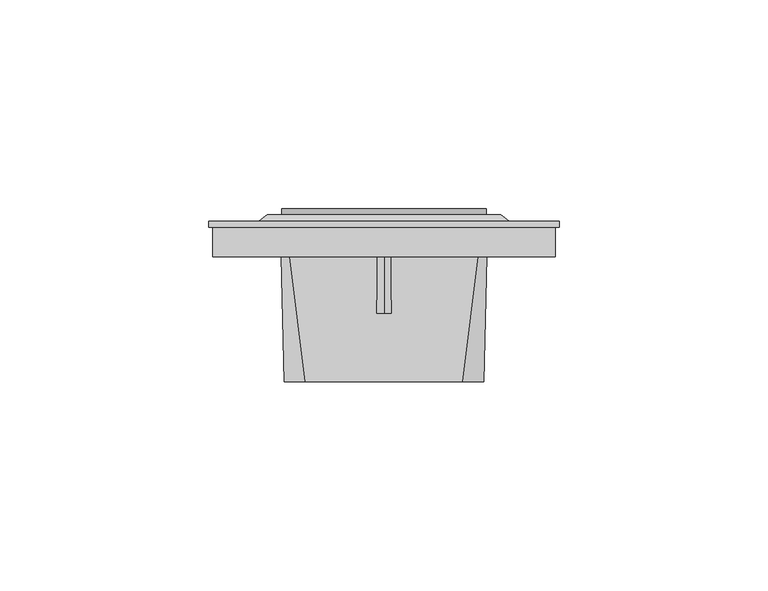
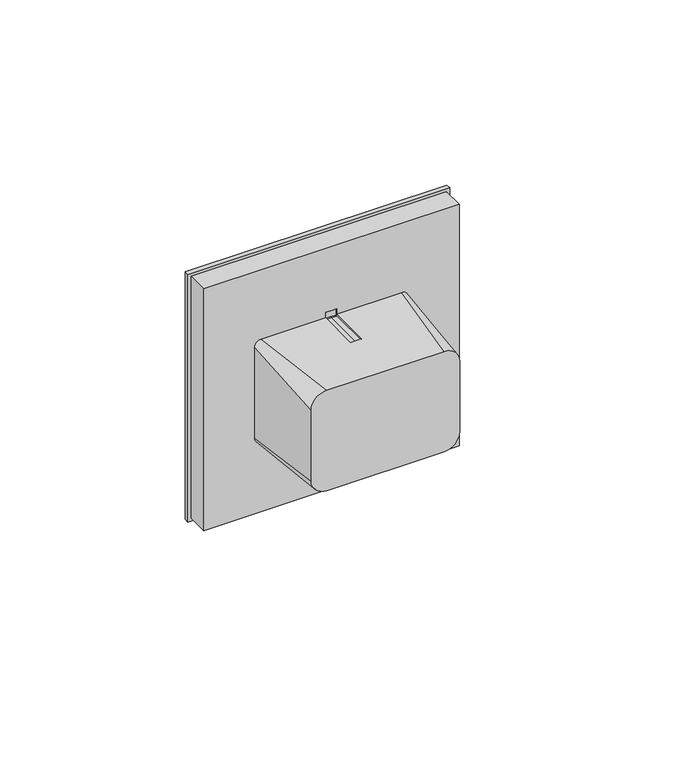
"""IFC4 building model written with IfcOpenShell, lengths in millimetres: proxy geometry, IEK_Brite_Розетка_1гн : Р1_РСР10-1-0-БрА."""

from ifc_helpers import new_model, si_unit, point, frame, frame_2d, origin, place, context, project, spatial, polyline, circle_curve, ellipse_curve, trimmed, segment, composite_curve, outline, extrude, source, transform, mapped, element, save
from ifc_brep_helpers import plane_surface, cylinder_surface, revolved_surface, spline_surface, advanced_brep


def electrical_fixtures_ac517def(model_context):
    return source(origin(), model_context, "Body", "SolidModel", [
        advanced_brep(
        [(-26.8904783, -13.4962918, 0.0), (-32.3753617, -13.4962918, 0.0), (-17.4894714, -13.4962918, 0.0), (-23.5105286, -13.4962918, 0.0), (-8.6246383, -13.4962918, 0.0), (-14.1095217, -13.4962918, 0.0), (-18.7082092, -13.4962918, 16.8280847), (-20.5, -13.4962918, 16.8280847), (-22.2917908, -13.4962918, 16.8280847), (-22.2917908, -13.4962918, 17.2750618), (-18.7082092, -13.4962918, 17.2750618), (-22.2917908, -13.4962918, -16.8280847), (-20.5, -13.4962918, -16.8280847), (-18.7082092, -13.4962918, -16.8280847), (-18.7082092, -13.4962918, -17.2750618), (-22.2917908, -13.4962918, -17.2750618), (-32.3753617, 0.0, 0.0), (-26.8904783, 0.0, 0.0), (-23.5105286, 0.0, 0.0), (-17.4894714, 0.0, 0.0), (-14.1095217, 0.0, 0.0), (-8.6246383, 0.0, 0.0), (-22.2917908, 0.0, 16.8280847), (-22.2917908, 0.0, 17.5), (-20.5, 0.0, 16.8280847), (-18.7082092, 0.0, 16.8280847), (-18.7082092, 0.0, 17.5), (-18.7082092, 0.0, -16.8280847), (-18.7082092, 0.0, -17.5), (-20.5, 0.0, -16.8280847), (-22.2917908, 0.0, -16.8280847), (-22.2917908, 0.0, -17.5), (-1.6500177, -30.0, -17.0), (3.3499823, -30.0, -12.0), (3.3499823, -30.0, 12.0), (-1.6500177, -30.0, 17.0), (-39.3499823, -30.0, 17.0), (-44.3499823, -30.0, 12.0), (-44.3499823, -30.0, -12.0), (-39.3499823, -30.0, -17.0), (-43.0691146, 0.0, -17.5), (-45.0691146, 0.0, -15.5), (-45.0691146, 0.0, 15.5), (-43.0691146, 0.0, 17.5), (2.0691146, 0.0, 17.5), (4.0691146, 0.0, 15.5), (4.0691146, 0.0, -15.5), (2.0691146, 0.0, -17.5)],
        [
            (0, 1, circle_curve(frame((-29.63292, -13.4962918, 0.0), z_axis=(0.0, 1.0, 0.0), x_axis=(-1.0, 0.0, 1.2191359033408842e-12)), 2.7424417)),
            (1, 0, circle_curve(frame((-29.63292, -13.4962918, 0.0), z_axis=(0.0, 1.0, 0.0), x_axis=(-1.0, 0.0, 1.2191359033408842e-12)), 2.7424417)),
            (2, 3, circle_curve(frame((-20.5, -13.4962918, 0.0), z_axis=(0.0, 1.0, 0.0), x_axis=(-1.0, 0.0, 1.2191359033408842e-12)), 3.0105286)),
            (3, 2, circle_curve(frame((-20.5, -13.4962918, 0.0), z_axis=(0.0, 1.0, 0.0), x_axis=(-1.0, 0.0, 1.2191359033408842e-12)), 3.0105286)),
            (4, 5, circle_curve(frame((-11.36708, -13.4962918, 0.0), z_axis=(0.0, 1.0, 0.0), x_axis=(-1.0, 0.0, 1.2191359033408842e-12)), 2.7424417)),
            (5, 4, circle_curve(frame((-11.36708, -13.4962918, 0.0), z_axis=(0.0, 1.0, 0.0), x_axis=(-1.0, 0.0, 1.2191359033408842e-12)), 2.7424417)),
            (6, 7),
            (7, 8),
            (8, 9),
            (9, 10),
            (10, 6),
            (11, 12),
            (12, 13),
            (13, 14),
            (14, 15),
            (15, 11),
            (1, 16),
            (16, 17, circle_curve(frame((-29.63292, 0.0, 0.0), z_axis=(0.0, 1.0, 0.0), x_axis=(-1.0, 0.0, 1.2191359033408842e-12)), 2.7424417)),
            (17, 0),
            (17, 16, circle_curve(frame((-29.63292, 0.0, 0.0), z_axis=(0.0, 1.0, 0.0), x_axis=(-1.0, 0.0, 1.2191359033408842e-12)), 2.7424417)),
            (3, 18),
            (18, 19, circle_curve(frame((-20.5, 0.0, 0.0), z_axis=(0.0, 1.0, 0.0), x_axis=(-1.0, 0.0, 1.2191359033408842e-12)), 3.0105286)),
            (19, 2),
            (19, 18, circle_curve(frame((-20.5, 0.0, 0.0), z_axis=(0.0, 1.0, 0.0), x_axis=(-1.0, 0.0, 1.2191359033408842e-12)), 3.0105286)),
            (5, 20),
            (20, 21, circle_curve(frame((-11.36708, 0.0, 0.0), z_axis=(0.0, 1.0, 0.0), x_axis=(-1.0, 0.0, 1.2191359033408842e-12)), 2.7424417)),
            (21, 4),
            (21, 20, circle_curve(frame((-11.36708, 0.0, 0.0), z_axis=(0.0, 1.0, 0.0), x_axis=(-1.0, 0.0, 1.2191359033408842e-12)), 2.7424417)),
            (8, 22),
            (22, 23),
            (23, 9),
            (7, 24),
            (24, 22),
            (6, 25),
            (25, 24),
            (10, 26),
            (26, 25),
            (13, 27),
            (27, 28),
            (28, 14),
            (12, 29),
            (29, 27),
            (11, 30),
            (30, 29),
            (15, 31),
            (31, 30),
            (32, 33, circle_curve(frame((-1.6500177, -30.0, -12.0), z_axis=(0.0, -1.0, 0.0), x_axis=(0.0, 0.0, -1.0)), 5.0)),
            (33, 34),
            (34, 35, circle_curve(frame((-1.6500177, -30.0, 12.0), z_axis=(0.0, -1.0, 0.0), x_axis=(0.0, 0.0, -1.0)), 5.0)),
            (35, 36),
            (36, 37, circle_curve(frame((-39.3499823, -30.0, 12.0), z_axis=(0.0, -1.0, 0.0), x_axis=(0.0, 0.0, -1.0)), 5.0)),
            (37, 38),
            (38, 39, circle_curve(frame((-39.3499823, -30.0, -12.0), z_axis=(0.0, -1.0, 0.0), x_axis=(0.0, 0.0, -1.0)), 5.0)),
            (39, 32),
            (40, 41, circle_curve(frame((-43.0691146, 0.0, -15.5), z_axis=(0.0, 1.0, 0.0), x_axis=(0.0, 0.0, -1.0)), 2.0)),
            (41, 42),
            (42, 43, circle_curve(frame((-43.0691146, 0.0, 15.5), z_axis=(0.0, 1.0, 0.0), x_axis=(0.0, 0.0, -1.0)), 2.0)),
            (43, 23),
            (26, 44),
            (44, 45, circle_curve(frame((2.0691146, 0.0, 15.5), z_axis=(0.0, 1.0, 0.0), x_axis=(0.0, 0.0, -1.0)), 2.0)),
            (45, 46),
            (46, 47, circle_curve(frame((2.0691146, 0.0, -15.5), z_axis=(0.0, 1.0, 0.0), x_axis=(0.0, 0.0, -1.0)), 2.0)),
            (47, 28),
            (31, 40),
            (32, 47),
            (46, 33),
            (45, 34),
            (44, 35),
            (43, 36),
            (42, 37),
            (41, 38),
            (40, 39),
        ],
        [
            plane_surface(frame((-32.3753617, -13.4962918, 0.0), z_axis=(0.0, 1.0, 0.0), x_axis=(-1.2191359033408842e-12, 0.0, -1.0))),
            revolved_surface(polyline([(-32.3753617, -13.4962918, 3.3434091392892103e-12), (-32.3753617, 0.0, 3.3434091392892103e-12)]), (-29.63292, 1.0, 0.0), (0.0, -1.0, 0.0)),
            revolved_surface(polyline([(-23.5105286, -13.4962918, 3.670243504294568e-12), (-23.5105286, 0.0, 3.670243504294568e-12)]), (-20.5, -2.0, 0.0), (0.0, -1.0, 0.0)),
            revolved_surface(polyline([(-14.1095217, -13.4962918, 3.3434091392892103e-12), (-14.1095217, 0.0, 3.3434091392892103e-12)]), (-11.36708, -2.0, 0.0), (0.0, -1.0, 0.0)),
            plane_surface(frame((-22.2917908, -13.4962918, 19.3280847), z_axis=(1.0, 0.0, -1.219917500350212e-12), x_axis=(0.0, 1.0, 0.0))),
            plane_surface(frame((-22.2917908, -13.4962918, 16.8280847), z_axis=(1.21932149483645e-12, 0.0, 1.0), x_axis=(0.0, 1.0, 0.0))),
            plane_surface(frame((-20.5, -13.4962918, 16.8280847), z_axis=(1.2240429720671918e-12, 0.0, 1.0), x_axis=(0.0, 1.0, 0.0))),
            plane_surface(frame((-18.7082092, -13.4962918, 16.8280847), z_axis=(-1.0, 0.0, 1.2190715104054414e-12), x_axis=(0.0, 1.0, 0.0))),
            plane_surface(frame((-18.7082092, -13.4962918, -19.3280847), z_axis=(-1.0, 0.0, 1.2190715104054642e-12), x_axis=(0.0, 1.0, 0.0))),
            plane_surface(frame((-18.7082092, -13.4962918, -16.8280847), z_axis=(-1.2240429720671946e-12, 0.0, -1.0), x_axis=(0.0, 1.0, 0.0))),
            plane_surface(frame((-20.5, -13.4962918, -16.8280847), z_axis=(-1.21932149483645e-12, 0.0, -1.0), x_axis=(0.0, 1.0, 0.0))),
            plane_surface(frame((-22.2917908, -13.4962918, -16.8280847), z_axis=(1.0, 0.0, -1.2199175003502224e-12), x_axis=(0.0, 1.0, 0.0))),
            plane_surface(frame((-20.5, -30.0, 0.0), z_axis=(0.0, -1.0, 0.0), x_axis=(1.0, 0.0, 0.0))),
            plane_surface(frame((-20.5, 0.0, 0.0), z_axis=(0.0, 1.0, 0.0), x_axis=(1.0, 0.0, 0.0))),
            spline_surface(2, 1, [[(2.0691146, 0.0, -17.5), (-1.6500177, -30.0, -17.0)], [(4.0691146, 0.0, -17.5), (3.3499822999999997, -30.0, -17.0)], [(4.0691146, 0.0, -15.5), (3.3499823, -30.0, -12.0)]], [3, 3], [2, 2], [0.0, 1.0], [0.0, 1.0], weights=[[1.0, 1.0], [0.7071067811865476, 0.7071067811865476], [1.0, 1.0]]),
            plane_surface(frame((4.0691146, 0.0, 0.0), z_axis=(0.9997128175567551, -0.023964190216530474, 0.0), x_axis=(0.0, 0.0, 1.0))),
            spline_surface(2, 1, [[(4.0691146, 0.0, 15.5), (3.3499823, -30.0, 12.0)], [(4.0691146, 0.0, 17.5), (3.3499822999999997, -30.0, 17.0)], [(2.0691146, 0.0, 17.5), (-1.6500177, -30.0, 17.0)]], [3, 3], [2, 2], [0.0, 1.0], [0.0, 1.0], weights=[[1.0, 1.0], [0.7071067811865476, 0.7071067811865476], [1.0, 1.0]]),
            plane_surface(frame((-20.5, 0.0, 17.5), z_axis=(0.0, -0.016664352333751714, 0.999861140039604), x_axis=(-1.0, 0.0, 0.0))),
            spline_surface(2, 1, [[(-43.0691146, 0.0, 17.5), (-39.3499823, -30.0, 17.0)], [(-45.0691146, 0.0, 17.5), (-44.3499823, -30.0, 17.0)], [(-45.0691146, 0.0, 15.5), (-44.3499823, -30.0, 12.0)]], [3, 3], [2, 2], [0.0, 1.0], [0.0, 1.0], weights=[[1.0, 1.0], [0.7071067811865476, 0.7071067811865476], [1.0, 1.0]]),
            plane_surface(frame((-45.0691146, 0.0, 0.0), z_axis=(-0.9997128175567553, -0.023964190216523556, 0.0), x_axis=(0.0, 0.0, -1.0))),
            spline_surface(2, 1, [[(-45.0691146, 0.0, -15.5), (-44.3499823, -30.0, -12.0)], [(-45.0691146, 0.0, -17.5), (-44.3499823, -30.0, -17.0)], [(-43.0691146, 0.0, -17.5), (-39.3499823, -30.0, -17.0)]], [3, 3], [2, 2], [0.0, 1.0], [0.0, 1.0], weights=[[1.0, 1.0], [0.7071067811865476, 0.7071067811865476], [1.0, 1.0]]),
            plane_surface(frame((-20.5, 0.0, -17.5), z_axis=(0.0, -0.016664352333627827, -0.9998611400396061), x_axis=(1.0, 0.0, 0.0))),
        ],
        [
            (0, [[1, 2]]),
            (0, [[3, 4]]),
            (0, [[5, 6]]),
            (0, [[7, 8, 9, 10, 11]]),
            (0, [[12, 13, 14, 15, 16]]),
            (1, [[-2, 17, 18, 19]]),
            (1, [[-1, -19, 20, -17]]),
            (2, [[-4, 21, 22, 23]]),
            (2, [[-3, -23, 24, -21]]),
            (3, [[-6, 25, 26, 27]]),
            (3, [[-5, -27, 28, -25]]),
            (4, [[-9, 29, 30, 31]]),
            (5, [[-8, 32, 33, -29]]),
            (6, [[-7, 34, 35, -32]]),
            (7, [[-11, 36, 37, -34]]),
            (8, [[-14, 38, 39, 40]]),
            (9, [[-13, 41, 42, -38]]),
            (10, [[-12, 43, 44, -41]]),
            (11, [[-16, 45, 46, -43]]),
            (12, [[47, 48, 49, 50, 51, 52, 53, 54]]),
            (13, [[55, 56, 57, 58, -30, -33, -35, -37, 59, 60, 61, 62, 63, -39, -42, -44, -46, 64], [-18, -20], [-22, -24], [-26, -28]]),
            (14, [[-47, 65, -62, 66]]),
            (15, [[-48, -66, -61, 67]]),
            (16, [[-49, -67, -60, 68]]),
            (17, [[-50, -68, -59, -36, -10, -31, -58, 69]]),
            (18, [[-51, -69, -57, 70]]),
            (19, [[-52, -70, -56, 71]]),
            (20, [[-53, -71, -55, 72]]),
            (21, [[-54, -72, -64, -45, -15, -40, -63, -65]]),
        ],
    ),
        advanced_brep(
        [(-26.8904783, 0.0, 0.0), (-32.3753617, 0.0, 0.0), (-32.3753617, 0.5, 0.0), (-26.8904783, 0.5, 0.0), (-17.4894714, 0.0, 0.0), (-23.5105286, 0.0, 0.0), (-23.5105286, 0.5, 0.0), (-17.4894714, 0.5, 0.0), (-8.6246383, 0.0, 0.0), (-14.1095217, 0.0, 0.0), (-14.1095217, 0.5, 0.0), (-8.6246383, 0.5, 0.0), (-22.2917908, 0.0, 19.3280847), (-22.2917908, 0.0, 16.8280847), (-22.2917908, 0.5, 16.8280847), (-22.2917908, 0.5, 19.3280847), (-20.5, 0.0, 16.8280847), (-20.5, 0.5, 16.8280847), (-18.7082092, 0.0, 16.8280847), (-18.7082092, 0.5, 16.8280847), (-18.7082092, 0.0, 19.3280847), (-18.7082092, 0.5, 19.3280847), (-20.5, 0.0, 19.3280847), (-20.5, 0.5, 19.3280847), (-22.2917908, 0.0, -19.3280847), (-20.5, 0.0, -19.3280847), (-20.5, 0.5, -19.3280847), (-22.2917908, 0.5, -19.3280847), (-18.7082092, 0.0, -19.3280847), (-18.7082092, 0.5, -19.3280847), (-18.7082092, 0.0, -16.8280847), (-18.7082092, 0.5, -16.8280847), (-20.5, 0.0, -16.8280847), (-20.5, 0.5, -16.8280847), (-22.2917908, 0.0, -16.8280847), (-22.2917908, 0.5, -16.8280847), (-48.5, 10.0, 28.0), (7.5, 10.0, 28.0), (7.5, 10.0, -28.0), (-48.5, 10.0, -28.0), (-0.5, 10.0, 0.0), (-40.5, 10.0, 0.0), (-50.5, 8.5, -30.0), (-50.5, 8.5, 30.0), (9.5, 8.5, -30.0), (9.5, 8.5, 30.0), (-0.5, 0.5, 0.0), (-40.5, 0.5, 0.0), (-62.5, 7.0, 42.0), (-62.5, 7.0, -42.0), (21.5, 7.0, -42.0), (21.5, 7.0, 42.0), (-61.5, 7.0, -41.0), (-61.5, 7.0, 41.0), (20.5, 7.0, 41.0), (20.5, 7.0, -41.0), (-62.5, 8.5, 42.0), (21.5, 8.5, 42.0), (21.5, 8.5, -42.0), (-62.5, 8.5, -42.0), (-61.5, 0.0, 41.0), (-61.5, 0.0, -41.0), (20.5, 0.0, -41.0), (20.5, 0.0, 41.0)],
        [
            (0, 1, circle_curve(frame((-29.63292, 0.0, 0.0), z_axis=(0.0, -1.0, 0.0), x_axis=(-1.0, 0.0, 1.2191359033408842e-12)), 2.7424417)),
            (1, 2),
            (2, 3, circle_curve(frame((-29.63292, 0.5, 0.0), z_axis=(0.0, 1.0, 0.0), x_axis=(-1.0, 0.0, 1.2191359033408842e-12)), 2.7424417)),
            (3, 0),
            (1, 0, circle_curve(frame((-29.63292, 0.0, 0.0), z_axis=(0.0, -1.0, 0.0), x_axis=(-1.0, 0.0, 1.2191359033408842e-12)), 2.7424417)),
            (3, 2, circle_curve(frame((-29.63292, 0.5, 0.0), z_axis=(0.0, 1.0, 0.0), x_axis=(-1.0, 0.0, 1.2191359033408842e-12)), 2.7424417)),
            (4, 5, circle_curve(frame((-20.5, 0.0, 0.0), z_axis=(0.0, -1.0, 0.0), x_axis=(-1.0, 0.0, 1.2191359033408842e-12)), 3.0105286)),
            (5, 6),
            (6, 7, circle_curve(frame((-20.5, 0.5, 0.0), z_axis=(0.0, 1.0, 0.0), x_axis=(-1.0, 0.0, 1.2191359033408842e-12)), 3.0105286)),
            (7, 4),
            (5, 4, circle_curve(frame((-20.5, 0.0, 0.0), z_axis=(0.0, -1.0, 0.0), x_axis=(-1.0, 0.0, 1.2191359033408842e-12)), 3.0105286)),
            (7, 6, circle_curve(frame((-20.5, 0.5, 0.0), z_axis=(0.0, 1.0, 0.0), x_axis=(-1.0, 0.0, 1.2191359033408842e-12)), 3.0105286)),
            (8, 9, circle_curve(frame((-11.36708, 0.0, 0.0), z_axis=(0.0, -1.0, 0.0), x_axis=(-1.0, 0.0, 1.2191359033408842e-12)), 2.7424417)),
            (9, 10),
            (10, 11, circle_curve(frame((-11.36708, 0.5, 0.0), z_axis=(0.0, 1.0, 0.0), x_axis=(-1.0, 0.0, 1.2191359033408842e-12)), 2.7424417)),
            (11, 8),
            (9, 8, circle_curve(frame((-11.36708, 0.0, 0.0), z_axis=(0.0, -1.0, 0.0), x_axis=(-1.0, 0.0, 1.2191359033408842e-12)), 2.7424417)),
            (11, 10, circle_curve(frame((-11.36708, 0.5, 0.0), z_axis=(0.0, 1.0, 0.0), x_axis=(-1.0, 0.0, 1.2191359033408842e-12)), 2.7424417)),
            (12, 13),
            (13, 14),
            (14, 15),
            (15, 12),
            (13, 16),
            (16, 17),
            (17, 14),
            (16, 18),
            (18, 19),
            (19, 17),
            (18, 20),
            (20, 21),
            (21, 19),
            (20, 22),
            (22, 23),
            (23, 21),
            (22, 12),
            (15, 23),
            (24, 25),
            (25, 26),
            (26, 27),
            (27, 24),
            (25, 28),
            (28, 29),
            (29, 26),
            (28, 30),
            (30, 31),
            (31, 29),
            (30, 32),
            (32, 33),
            (33, 31),
            (32, 34),
            (34, 35),
            (35, 33),
            (34, 24),
            (27, 35),
            (36, 37),
            (37, 38),
            (38, 39),
            (39, 36),
            (40, 41, circle_curve(frame((-20.5, 10.0, 0.0), z_axis=(0.0, -1.0, 0.0), x_axis=(-1.0, 0.0, 0.0)), 20.0)),
            (41, 40, circle_curve(frame((-20.5, 10.0, 0.0), z_axis=(0.0, -1.0, 0.0), x_axis=(-1.0, 0.0, 0.0)), 20.0)),
            (39, 42),
            (42, 43),
            (43, 36),
            (38, 44),
            (44, 42),
            (37, 45),
            (45, 44),
            (43, 45),
            (46, 47, circle_curve(frame((-20.5, 0.5, 0.0), z_axis=(0.0, 1.0, 0.0), x_axis=(-1.0, 0.0, 0.0)), 20.0)),
            (47, 46, circle_curve(frame((-20.5, 0.5, 0.0), z_axis=(0.0, 1.0, 0.0), x_axis=(-1.0, 0.0, 0.0)), 20.0)),
            (47, 41),
            (40, 46),
            (48, 49),
            (49, 50),
            (50, 51),
            (51, 48),
            (52, 53),
            (53, 54),
            (54, 55),
            (55, 52),
            (56, 57),
            (57, 58),
            (58, 59),
            (59, 56),
            (51, 57),
            (56, 48),
            (50, 58),
            (49, 59),
            (60, 61),
            (61, 62),
            (62, 63),
            (63, 60),
            (60, 53),
            (52, 61),
            (55, 62),
            (63, 54),
        ],
        [
            revolved_surface(polyline([(-32.3753617, 0.0, 3.3434091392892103e-12), (-32.3753617, 0.5, 3.3434091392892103e-12)]), (-29.63292, 1.0, 0.0), (0.0, -1.0, 0.0)),
            revolved_surface(polyline([(-23.5105286, 0.0, 3.670243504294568e-12), (-23.5105286, 0.5, 3.670243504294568e-12)]), (-20.5, -2.0, 0.0), (0.0, -1.0, 0.0)),
            revolved_surface(polyline([(-14.1095217, 0.0, 3.3434091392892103e-12), (-14.1095217, 0.5, 3.3434091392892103e-12)]), (-11.36708, -2.0, 0.0), (0.0, -1.0, 0.0)),
            plane_surface(frame((-22.2917908, -13.4962918, 19.3280847), z_axis=(1.0, 0.0, -1.219917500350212e-12), x_axis=(0.0, 1.0, 0.0))),
            plane_surface(frame((-22.2917908, -13.4962918, 16.8280847), z_axis=(1.21932149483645e-12, 0.0, 1.0), x_axis=(0.0, 1.0, 0.0))),
            plane_surface(frame((-20.5, -13.4962918, 16.8280847), z_axis=(1.2240429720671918e-12, 0.0, 1.0), x_axis=(0.0, 1.0, 0.0))),
            plane_surface(frame((-18.7082092, -13.4962918, 16.8280847), z_axis=(-1.0, 0.0, 1.2190715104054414e-12), x_axis=(0.0, 1.0, 0.0))),
            plane_surface(frame((-18.7082092, -13.4962918, 19.3280847), z_axis=(-1.2181411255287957e-12, 0.0, -1.0), x_axis=(0.0, 1.0, 0.0))),
            plane_surface(frame((-20.5, -13.4962918, 19.3280847), z_axis=(-1.2181411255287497e-12, 0.0, -1.0), x_axis=(0.0, 1.0, 0.0))),
            plane_surface(frame((-22.2917908, -13.4962918, -19.3280847), z_axis=(1.2181411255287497e-12, 0.0, 1.0), x_axis=(0.0, 1.0, 0.0))),
            plane_surface(frame((-20.5, -13.4962918, -19.3280847), z_axis=(1.2181411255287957e-12, 0.0, 1.0), x_axis=(0.0, 1.0, 0.0))),
            plane_surface(frame((-18.7082092, -13.4962918, -19.3280847), z_axis=(-1.0, 0.0, 1.2190715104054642e-12), x_axis=(0.0, 1.0, 0.0))),
            plane_surface(frame((-18.7082092, -13.4962918, -16.8280847), z_axis=(-1.2240429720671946e-12, 0.0, -1.0), x_axis=(0.0, 1.0, 0.0))),
            plane_surface(frame((-20.5, -13.4962918, -16.8280847), z_axis=(-1.21932149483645e-12, 0.0, -1.0), x_axis=(0.0, 1.0, 0.0))),
            plane_surface(frame((-22.2917908, -13.4962918, -16.8280847), z_axis=(1.0, 0.0, -1.2199175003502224e-12), x_axis=(0.0, 1.0, 0.0))),
            plane_surface(frame((-20.5, 10.0, 0.0), z_axis=(0.0, 1.0, 0.0), x_axis=(1.0, 0.0, 0.0))),
            plane_surface(frame((-48.5, 10.0, 0.0), z_axis=(-0.5999999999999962, 0.8000000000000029, 0.0), x_axis=(0.0, 0.0, -1.0))),
            plane_surface(frame((-20.5, 10.0, -28.0), z_axis=(0.0, 0.7999999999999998, -0.6000000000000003), x_axis=(1.0, 0.0, 0.0))),
            plane_surface(frame((7.5, 10.0, 0.0), z_axis=(0.6000000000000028, 0.7999999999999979, 0.0), x_axis=(0.0, 0.0, 1.0))),
            plane_surface(frame((-20.5, 10.0, 28.0), z_axis=(0.0, 0.7999999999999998, 0.6000000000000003), x_axis=(-1.0, 0.0, 0.0))),
            plane_surface(frame((-40.5, 0.5, 0.0), z_axis=(0.0, 1.0, 0.0), x_axis=(0.0, 0.0, -1.0))),
            revolved_surface(polyline([(-40.5, 10.0, 0.0), (-40.5, 0.5, 0.0)]), (-20.5, 0.5, 0.0), (0.0, 1.0, 0.0)),
            plane_surface(frame((62.5, 7.0, 42.0), z_axis=(0.0, -1.0, 0.0), x_axis=(-1.0, 0.0, 0.0))),
            plane_surface(frame((62.5, 8.5, 42.0), z_axis=(0.0, 1.0, 0.0), x_axis=(1.0, 0.0, 0.0))),
            plane_surface(frame((-62.5, 8.5, 42.0), z_axis=(0.0, 0.0, 1.0), x_axis=(0.0, -1.0, 0.0))),
            plane_surface(frame((21.5, 8.5, 42.0), z_axis=(1.0, 0.0, 0.0), x_axis=(0.0, -1.0, 0.0))),
            plane_surface(frame((21.5, 8.5, -42.0), z_axis=(0.0, 0.0, -1.0), x_axis=(0.0, -1.0, 0.0))),
            plane_surface(frame((-62.5, 8.5, -42.0), z_axis=(-1.0, 0.0, 0.0), x_axis=(0.0, -1.0, 0.0))),
            plane_surface(frame((-61.5, 0.0, 41.0), z_axis=(0.0, -1.0, 0.0), x_axis=(0.0, 0.0, -1.0))),
            plane_surface(frame((-61.5, 0.0, 41.0), z_axis=(-1.0, 0.0, 0.0), x_axis=(0.0, 1.0, 0.0))),
            plane_surface(frame((-61.5, 0.0, -41.0), z_axis=(0.0, 0.0, -1.0), x_axis=(0.0, 1.0, 0.0))),
            plane_surface(frame((20.5, 0.0, 41.0), z_axis=(0.0, 0.0, 1.0), x_axis=(0.0, 1.0, 0.0))),
            plane_surface(frame((20.5, 0.0, -41.0), z_axis=(1.0, 0.0, 0.0), x_axis=(0.0, 1.0, 0.0))),
        ],
        [
            (0, [[1, 2, 3, 4]]),
            (0, [[5, -4, 6, -2]]),
            (1, [[7, 8, 9, 10]]),
            (1, [[11, -10, 12, -8]]),
            (2, [[13, 14, 15, 16]]),
            (2, [[17, -16, 18, -14]]),
            (3, [[19, 20, 21, 22]]),
            (4, [[23, 24, 25, -20]]),
            (5, [[26, 27, 28, -24]]),
            (6, [[29, 30, 31, -27]]),
            (7, [[32, 33, 34, -30]]),
            (8, [[35, -22, 36, -33]]),
            (9, [[37, 38, 39, 40]]),
            (10, [[41, 42, 43, -38]]),
            (11, [[44, 45, 46, -42]]),
            (12, [[47, 48, 49, -45]]),
            (13, [[50, 51, 52, -48]]),
            (14, [[53, -40, 54, -51]]),
            (15, [[55, 56, 57, 58], [59, 60]]),
            (16, [[-58, 61, 62, 63]]),
            (17, [[-57, 64, 65, -61]]),
            (18, [[-56, 66, 67, -64]]),
            (19, [[-55, -63, 68, -66]]),
            (20, [[69, 70], [-3, -6], [-9, -12], [-15, -18], [-21, -25, -28, -31, -34, -36], [-39, -43, -46, -49, -52, -54]]),
            (21, [[-70, 71, -59, 72]]),
            (21, [[-69, -72, -60, -71]]),
            (22, [[73, 74, 75, 76], [77, 78, 79, 80]]),
            (23, [[81, 82, 83, 84], [-62, -65, -67, -68]]),
            (24, [[-76, 85, -81, 86]]),
            (25, [[-75, 87, -82, -85]]),
            (26, [[-74, 88, -83, -87]]),
            (27, [[-73, -86, -84, -88]]),
            (28, [[89, 90, 91, 92], [-1, -5], [-7, -11], [-13, -17], [-19, -35, -32, -29, -26, -23], [-37, -53, -50, -47, -44, -41]]),
            (29, [[-89, 93, -77, 94]]),
            (30, [[-90, -94, -80, 95]]),
            (31, [[-92, 96, -78, -93]]),
            (32, [[-91, -95, -79, -96]]),
        ],
    ),
        extrude(outline(composite_curve([segment(trimmed(circle_curve(frame_2d((0.0, -20.5)), 24.5), [point((0.0, 4.0))], [point((0.0, -45.0))], False, "CARTESIAN"), True, "CONTINUOUS"), segment(trimmed(circle_curve(frame_2d((0.0, -20.5)), 24.5), [point((0.0, -45.0))], [point((0.0, 4.0))], False, "CARTESIAN"), True, "CONTINUOUS")], self_intersect=False), holes=[composite_curve([segment(trimmed(circle_curve(frame_2d((0.0, -20.5)), 20.0), [point((0.0, -0.5))], [point((0.0, -40.5))], True, "CARTESIAN"), True, "CONTINUOUS"), segment(trimmed(circle_curve(frame_2d((0.0, -20.5)), 20.0), [point((0.0, -40.5))], [point((0.0, -0.5))], True, "CARTESIAN"), True, "CONTINUOUS")], self_intersect=False)]), frame((0.0, 10.0, 0.0), z_axis=(0.0, 1.0, 0.0), x_axis=(0.0, 0.0, 1.0)), (0.0, 0.0, 1.0), 1.5),
        advanced_brep(
        [(-20.5, 1.8805573, 0.0), (-17.6013083, 1.0937742, 0.0), (-23.3986917, 1.0937742, 0.0), (-17.6013083, -0.6843508, 0.0), (-23.3986917, -0.6843508, 0.0), (-20.5, -0.6843508, 0.0)],
        [
            (0, 1, ellipse_curve(frame((-20.34375, 1.0937742, 0.0), z_axis=(0.0, 0.0, -1.0), x_axis=(1.0, 0.0, 0.0)), 2.7424417, 0.7880633)),
            (1, 2, circle_curve(frame((-20.5, 1.0937742, 0.0), z_axis=(0.0, 1.0, 0.0), x_axis=(1.0, 0.0, 0.0)), 2.8986917)),
            (2, 0, ellipse_curve(frame((-20.65625, 1.0937742, 0.0), z_axis=(0.0, 0.0, -1.0), x_axis=(-1.0, 0.0, 0.0)), 2.7424417, 0.7880633)),
            (2, 1, circle_curve(frame((-20.5, 1.0937742, 0.0), z_axis=(0.0, 1.0, 0.0), x_axis=(1.0, 0.0, 0.0)), 2.8986917)),
            (1, 3),
            (3, 4, circle_curve(frame((-20.5, -0.6843508, 0.0), z_axis=(0.0, 1.0, 0.0), x_axis=(1.0, 0.0, 0.0)), 2.8986917)),
            (4, 2),
            (4, 3, circle_curve(frame((-20.5, -0.6843508, 0.0), z_axis=(0.0, 1.0, 0.0), x_axis=(1.0, 0.0, 0.0)), 2.8986917)),
            (3, 5),
            (5, 4),
        ],
        [
            revolved_surface(trimmed(ellipse_curve(frame((-20.34375, 1.0937742, 0.0), z_axis=(0.0, 0.0, 1.0), x_axis=(1.0, 0.0, 0.0)), 2.7424417, 0.7880633), [point((-17.6013083, 1.0937742, 0.0))], [point((-20.5, 1.8805573, 0.0))], True, "CARTESIAN"), (-20.5, -2.0071642, 0.0), (0.0, 1.0, 0.0)),
            cylinder_surface(frame((-20.5, -2.0071642, 0.0), z_axis=(0.0, 1.0, 0.0), x_axis=(1.0, 0.0, 0.0)), 2.8986917),
            plane_surface(frame((-20.5, -0.6843508, 0.0), z_axis=(0.0, -1.0, 0.0), x_axis=(1.0, 0.0, 0.0))),
        ],
        [
            (0, [[1, 2, 3]]),
            (0, [[-3, 4, -1]]),
            (1, [[-2, 5, 6, 7]]),
            (1, [[-4, -7, 8, -5]]),
            (2, [[-6, 9, 10]]),
            (2, [[-8, -10, -9]]),
        ],
    ),
        extrude(outline(composite_curve([segment(trimmed(circle_curve(frame_2d((0.0, -20.5)), 20.0), [point((0.0, -0.5))], [point((0.0, -40.5))], False, "CARTESIAN"), True, "CONTINUOUS"), segment(trimmed(circle_curve(frame_2d((0.0, -20.5)), 20.0), [point((0.0, -40.5))], [point((0.0, -0.5))], False, "CARTESIAN"), True, "CONTINUOUS")], self_intersect=False), holes=[composite_curve([segment(trimmed(circle_curve(frame_2d((0.0, -29.63292)), 2.7424417), [point((0.0, -26.8904783))], [point((0.0, -32.3753617))], True, "CARTESIAN"), True, "CONTINUOUS"), segment(trimmed(circle_curve(frame_2d((0.0, -29.63292)), 2.7424417), [point((0.0, -32.3753617))], [point((0.0, -26.8904783))], True, "CARTESIAN"), True, "CONTINUOUS")], self_intersect=False), composite_curve([segment(trimmed(circle_curve(frame_2d((0.0, -11.36708)), 2.7424417), [point((0.0, -8.6246383))], [point((0.0, -14.1095217))], True, "CARTESIAN"), True, "CONTINUOUS"), segment(trimmed(circle_curve(frame_2d((0.0, -11.36708)), 2.7424417), [point((0.0, -14.1095217))], [point((0.0, -8.6246383))], True, "CARTESIAN"), True, "CONTINUOUS")], self_intersect=False), composite_curve([segment(trimmed(circle_curve(frame_2d((0.0, -20.5)), 3.0105286), [point((0.0, -17.4894714))], [point((0.0, -23.5105286))], True, "CARTESIAN"), True, "CONTINUOUS"), segment(trimmed(circle_curve(frame_2d((0.0, -20.5)), 3.0105286), [point((0.0, -23.5105286))], [point((0.0, -17.4894714))], True, "CARTESIAN"), True, "CONTINUOUS")], self_intersect=False)]), frame((0.0, 0.5, 0.0), z_axis=(0.0, 1.0, 0.0), x_axis=(0.0, 0.0, 1.0)), (0.0, 0.0, 1.0), 0.5),
    ])


if __name__ == "__main__":
    model = new_model("IFC4")
    model_context = context("Model", 3, world=origin())
    ifc_project = project(units=[si_unit("LENGTHUNIT", "METRE", prefix="MILLI")], contexts=[model_context])
    site = spatial("IfcSite", under=ifc_project)
    building = spatial("IfcBuilding", under=site)
    placement = place(None, origin())
    electrical_fixtures_shape = electrical_fixtures_ac517def(model_context)
    element("IfcBuildingElementProxy", 1, Name="IEK_Brite_Розетка_1гн : Р1_РСР10-1-0-БрА", ObjectType="IEK_Brite_Розетка_1гн : Р1_РСР10-1-0-БрА", at=placement, inside=building, context=model_context, shape_type="MappedRepresentation", body=[
        mapped(electrical_fixtures_shape, transform((0.0, 0.0, 0.0), x_axis=(1.0, 0.0, 0.0), y_axis=(0.0, 1.0, 0.0), z_axis=(0.0, 0.0, 1.0))),
    ])
    save(model, "model.ifc")
